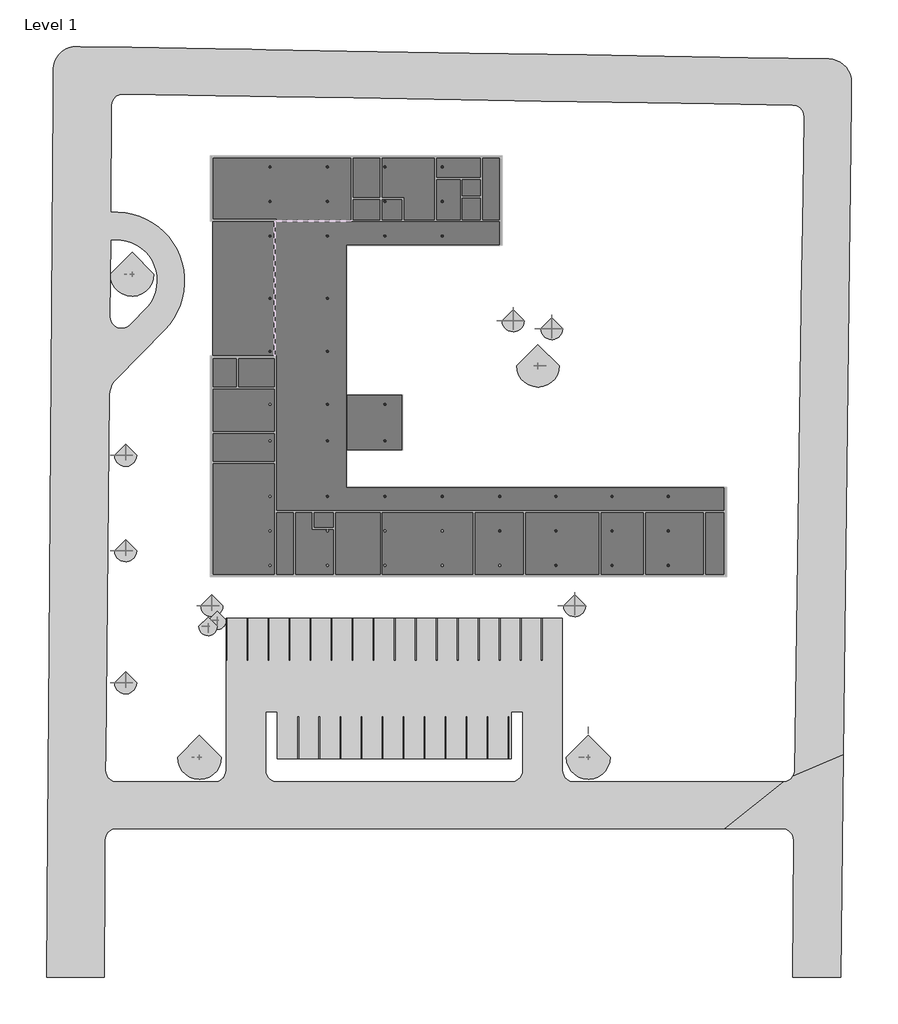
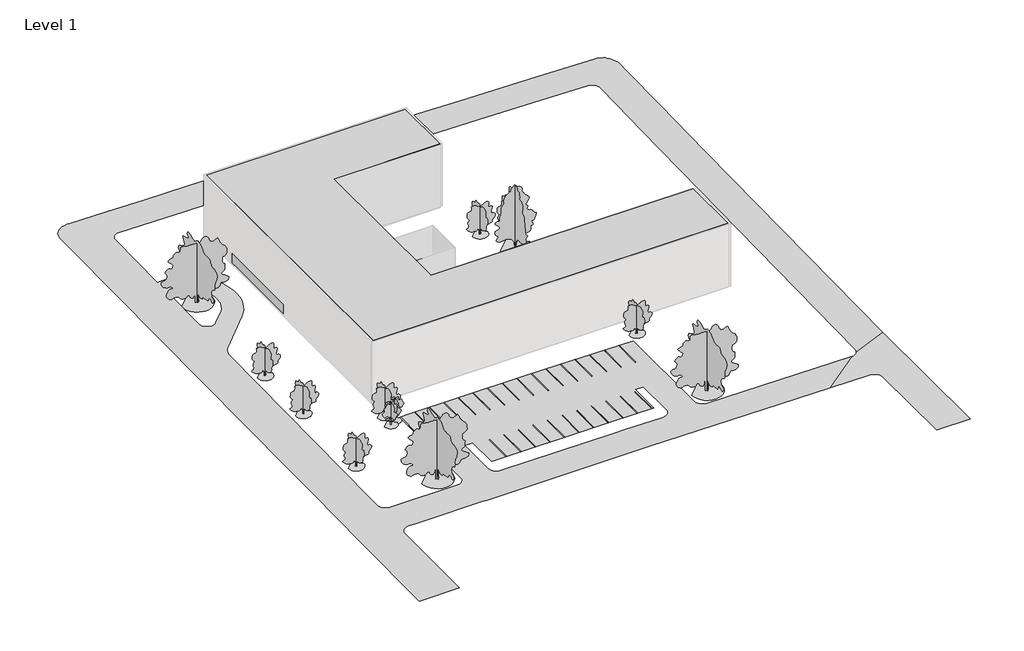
# One storey, part 3 of 3: 34 columns, 30 proxies, 13 geographic elements.
"""IFC4 building model written with IfcOpenShell, lengths in millimetres."""

from ifc_helpers import new_model, si_unit, origin, origin_with_axes, place, context, project, spatial, polyline, outline, extrude, triangles, transform, mapped, element, save
from components import m_parking_space_5480_x_2740mm_90_deg_a793e569, m_concrete_round_column_300mm_df790aaa, m_rpc_tree_deciduous_american_beech_6_0_meters_be49fed4, m_rpc_tree_deciduous_japanese_cherry_4_5_meters_7aaeb41d, m_rpc_tree_deciduous_lombardy_poplar_12_2_meters_1b309f58, m_rpc_tree_deciduous_scarlet_oak_12_5_meters_13b38d7d

model = new_model("IFC4")

# Units and contexts
model_context = context("Model", 3, world=origin())
ifc_project = project(units=[si_unit("LENGTHUNIT", "METRE", prefix="MILLI")], contexts=[model_context])

# Site, building, storey
site = spatial("IfcSite", under=ifc_project)
building = spatial("IfcBuilding", under=site)
storey = spatial("IfcBuildingStorey", under=building, Name="Level 1", Elevation=0.0)

# Proxies
placement = place(None, origin())
element("IfcBuildingElementProxy", 1, Name="Building Element Proxy", at=placement, inside=storey, context=model_context, shape_type="Tessellation", body=[
    triangles([(70309.7548828, 43704.7137085, -503.1527547), (59746.7205688, 43879.5355957, -409.5406998), (45204.5570435, 44120.2092773, -278.9620967), (38757.531958, 44226.9097412, -221.9724431), (23364.4389771, 44481.6709351, -156.1477909), (7458.42556, 44744.915332, 0.0), (-3099.0088051, 44919.6442017, 0.0), (-4909.0805878, 44949.6005127, 0.0), (-9691.7927261, 45028.7538208, 0.0), (-13464.786264, 45091.2011719, 0.0), (-20574.5627563, 45208.8684082, 0.0), (-27271.6376953, 45319.7081543, 0.0), (-27739.5370422, 45327.4518677, 0.0), (-28264.1631592, 45290.0215942, 0.0), (-28774.1901672, 45161.5457153, 0.0), (-29253.9399536, 44945.9681763, 0.0), (-29688.6669067, 44649.9211304, 0.0), (-30065.011377, 44282.4970459, 0.0), (-30371.4019775, 43854.9975586, 0.0), (-30598.4230042, 43380.5567505, 0.0), (-30739.095813, 42873.755127, 0.0), (-30774.2820374, 42505.3404053, 0.0), (-30789.0997375, 42350.1824341, 0.0), (-30818.2607483, 38430.6216797, 0.0), (-31349.0702087, -32913.8142334, 0.0), (-31410.3827454, -41154.7298218, 0.0), (-31466.9560364, -48758.3494263, 0.0), (-31526.3942688, -56747.4710815, 0.0), (-31669.8878357, -76033.9217651, 0.0), (-24160.2671448, -76033.9217651, 0.0), (-24090.7853394, -62944.5904907, 0.0), (-24065.2287598, -58130.4099243, 0.0), (-24026.1078918, -57797.9371948, 0.0), (-23964.4744446, -57624.1291992, 0.0), (-23914.2263489, -57482.4262207, 0.0), (-23735.1558838, -57199.58302, 0.0), (-23497.8145569, -56963.4997559, 0.0), (-23214.0249023, -56785.9338501, 0.0), (-22897.9232666, -56675.7266235, 0.0), (-22565.2505493, -56638.3707642, 0.0), (-21189.1601257, -56638.3707642, 0.0), (-18714.6158203, -56638.3707642, 0.0), (-9198.8908356, -56638.3707642, 0.0), (-8594.8358459, -56638.3707642, 0.0), (-7828.2291504, -56638.3707642, 0.0), (21010.0826843, -56638.3707642, 0.0), (22698.8121643, -56638.3707642, 0.0), (56711.1151611, -56638.3707642, -334.7282604), (64236.9255615, -56638.3707642, -334.7282604), (64572.5050781, -56676.3916992, -334.0721231), (64891.0763306, -56788.5243896, -332.1369578), (65176.4821655, -56969.0808105, -329.020869), (65414.2630005, -57208.917334, -324.8818048), (65592.3591064, -57495.8672607, -319.9295998), (65701.7431274, -57815.3872925, -314.4152925), (65736.8712158, -58151.2830688, -308.6184443), (65582.9224731, -76033.9217651, 0.0), (71858.6882446, -76033.9217651, 0.0), (72207.6111328, -46972.9328247, -501.5343578), (72914.4470581, 11897.6051788, -595.5837407), (72981.5592407, 17486.9884277, -555.8220689), (73096.2220093, 27037.1194519, -545.4053719), (73231.3532959, 38291.881311, -535.7858282), (73259.8957397, 40669.1083008, -533.0508934), (73220.8237061, 41189.0672607, -532.0520082), (73092.3059692, 41694.4085083, -530.2807137), (72878.2306641, 42169.863208, -527.790495), (72585.0625122, 42601.0694458, -524.6566383), (72221.661438, 42975.0001099, -520.9737236), (71799.0035156, 43280.3582153, -516.8530812), (71329.8554077, 43507.9210693, -512.4191949), (70828.3883423, 43650.810022, -507.805959), (65844.943689, -49064.5493408, -435.8225258), (65789.1005859, -49448.423584, -434.7050795), (65636.6912842, -49805.1366943, -432.6774053), (65397.8965576, -50110.8436157, -429.875069), (65088.6968262, -50345.0897827, -426.4855594), (64729.7652466, -50492.2110352, -422.7355339), (64345.1050049, -50542.3707642, -418.8757768), (37077.7972778, -50542.3707642, -150.5276125), (36744.0176514, -50504.7637573, -147.2983764), (36426.9718872, -50393.8263428, -144.3423523), (36142.5636658, -50215.1163208, -141.8077414), (35905.0502563, -49977.6052368, -139.8216707), (35726.3448853, -49693.1946899, -138.4837074), (35615.4051453, -49376.1535767, -137.8609529), (35577.7981384, -49042.3692993, -137.9846372), (35577.7981384, -29206.3707642, -167.3300298), (18575.1115448, -29206.3707642, 0.0), (14497.9359924, -29206.3707642, 0.0), (-7039.9656372, -29206.3707642, 0.0), (-8262.2014984, -29206.3707642, 0.0), (-8262.2014984, -49042.3692993, 0.0), (-8299.809668, -49376.1535767, 0.0), (-8410.7482452, -49693.1946899, 0.0), (-8589.4541977, -49977.6052368, 0.0), (-8665.8786026, -50054.028479, 0.0), (-8826.9670258, -50215.1163208, 0.0), (-9111.3758286, -50393.8263428, 0.0), (-9428.4198486, -50504.7637573, 0.0), (-9455.9652603, -50507.8658936, 0.0), (-9762.2018005, -50542.3707642, 0.0), (-21961.0269653, -50542.3707642, 0.0), (-22489.1714722, -50542.3707642, 0.0), (-22825.1137573, -50504.2661133, 0.0), (-23143.9896423, -50391.896228, 0.0), (-23429.5977905, -50210.9584351, 0.0), (-23667.4274597, -49970.6568237, 0.0), (-23845.3979919, -49683.1953003, 0.0), (-23954.4657532, -49363.1729736, 0.0), (-23989.0915466, -49026.8539673, 0.0), (-23965.8278503, -46777.8191528, 0.0), (-23482.8736084, -89.4265001, 0.0), (-23435.7322998, 363.1888415, 0.0), (-23321.7694885, 803.7518847, 0.0), (-23143.5268799, 1222.4547432, 0.0), (-22904.9670227, 1609.9761475, 0.0), (-22611.4058716, 1957.6892258, 0.0), (-16262.7991974, 8428.9988754, 0.0), (-15636.7711304, 9137.9788559, 0.0), (-15088.4732025, 9908.6498383, 0.0), (-14623.9422546, 10732.5286194, 0.0), (-14248.2919281, 11600.5442413, 0.0), (-13965.658017, 12503.1414734, 0.0), (-13779.1507965, 13430.3848755, 0.0), (-13690.8247925, 14372.0646057, 0.0), (-13701.6508759, 15317.8173431, 0.0), (-13811.5116119, 16257.2297699, 0.0), (-14019.1954468, 17179.959494, 0.0), (-14322.4187988, 18075.8513214, 0.0), (-14717.8411743, 18935.0395752, 0.0), (-15201.1093506, 19748.0690186, 0.0), (-15766.9062103, 20505.9855469, 0.0), (-16409.0007385, 21200.4478088, 0.0), (-17120.3235992, 21823.812085, 0.0), (-17893.0473633, 22369.2160034, 0.0), (-18718.662085, 22830.6506287, 0.0), (-19588.0811096, 23203.0418518, 0.0), (-20491.7329285, 23482.2875977, 0.0), (-21419.6693115, 23665.3136353, 0.0), (-22361.6746033, 23750.1084595, 0.0), (-23307.3796692, 23735.7325928, 0.0), (-23203.9185425, 37641.6768127, 0.0), (-23163.3768311, 37977.0679688, 0.0), (-23048.8094055, 38294.8811279, 0.0), (-22866.0228882, 38578.9940186, 0.0), (-22624.2911316, 38814.9958923, 0.0), (-22335.8738525, 38990.915387, 0.0), (-22015.4050415, 39097.8274658, 0.0), (-21679.1371948, 39130.3092041, 0.0), (-13208.9460663, 38990.1293884, 0.0), (-9625.997905, 38930.8306824, 0.0), (-5084.1908295, 38855.6655029, 0.0), (-1645.9585442, 38798.7619995, 0.0), (8377.2142456, 38632.8791016, 0.0), (32875.1398499, 38227.4364075, -240.4937689), (46729.6360474, 37998.1434265, -299.7389899), (55435.3325684, 37854.0638489, -376.6945579), (65630.1847046, 37685.3392639, -468.2372987), (65962.9318359, 37642.302356, -471.261242), (66277.7870361, 37526.3815247, -474.1950019), (66559.0024292, 37343.376416, -476.8917123), (66792.4998047, 37102.4422852, -479.216534), (66966.6054565, 36815.6318848, -481.0531225), (67072.6082886, 36497.2978271, -482.3095865), (67105.1969971, 36163.3670471, -482.9230665), (67025.2297852, 30755.4808594, -487.4104743), (66899.3025879, 22239.1774292, -496.4906977), (66805.7827148, 15914.661145, -541.4088498), (-1581.9995121, -47494.3707642, 0.0), (18839.3663452, -47494.3707642, 0.0), (21324.2449036, -47494.3707642, 0.0), (28897.5965881, -47494.3707642, -74.5322966), (28897.5965881, -41398.3707642, -83.5507232), (30421.5965881, -41398.3707642, -98.5489992), (30421.5965881, -49042.3692993, -87.2404598), (30383.9895813, -49376.1535767, -86.3765409), (30273.0498413, -49693.1946899, -84.8157168), (30094.3444702, -49977.6052368, -82.6362441), (29856.8310608, -50215.1163208, -79.9474184), (29572.4228394, -50393.8263428, -76.8840607), (29255.3770752, -50504.7637573, -73.5997817), (28921.5974487, -50542.3707642, -70.2592743), (21782.4332153, -50542.3707642, 0.0), (19562.9384583, -50542.3707642, 0.0), (-1605.9993553, -50542.3707642, 0.0), (-1939.7807259, -50504.7637573, 0.0), (-2256.8250366, -50393.8263428, 0.0), (-2541.2341301, -50215.1163208, 0.0), (-2778.7466675, -49977.6052368, 0.0), (-2957.4526199, -49693.1946899, 0.0), (-3068.3911972, -49376.1535767, 0.0), (-3105.9993668, -49042.3692993, 0.0), (-3105.9993668, -41398.3707642, 0.0), (-1581.9995121, -41398.3707642, 0.0), (-23329.5411072, 20062.4428528, 0.0), (-22621.2355042, 20122.8182373, 0.0), (-21911.2137268, 20088.0784973, 0.0), (-21212.1866272, 19958.8398743, 0.0), (-20536.6766968, 19737.4208313, 0.0), (-19896.7808716, 19427.7839172, 0.0), (-19303.9589172, 19035.4776306, 0.0), (-18768.829953, 18567.527124, 0.0), (-18300.9771149, 18032.3132813, 0.0), (-17908.7801239, 17439.420401, 0.0), (-17599.2606445, 16799.4687653, 0.0), (-17377.9648499, 16123.9181396, 0.0), (-17248.854126, 15424.8677856, 0.0), (-17214.2422852, 14714.8378693, 0.0), (-17274.7478943, 14006.5438934, 0.0), (-17429.2872986, 13312.6722931, 0.0), (-17675.0943878, 12645.649054, 0.0), (-18007.7659424, 12017.4211212, 0.0), (-18421.3430237, 11439.2389709, 0.0), (-20791.7983337, 9022.9684341, 0.0), (-21073.2044128, 8797.119429, 0.0), (-21399.8193604, 8643.7590225, 0.0), (-21753.3349915, 8571.483783, 0.0), (-22113.9339111, 8584.3452072, 0.0), (-22461.4010742, 8681.6229904, 0.0), (-22776.2609253, 8857.8639771, 0.0), (-23040.8610535, 9103.1879562, 0.0), (-23240.3698059, 9403.8428604, 0.0), (-23363.6018188, 9742.9750671, 0.0), (-23403.6505371, 10101.5741089, 0.0)], [[29, 30, 31], [29, 31, 28], [28, 32, 33], [32, 28, 31], [33, 34, 28], [28, 34, 35], [36, 37, 108], [36, 108, 28], [108, 37, 107], [38, 106, 107], [106, 38, 39], [37, 38, 107], [36, 28, 35], [28, 108, 27], [110, 111, 27], [109, 110, 27], [26, 27, 112], [25, 112, 113], [112, 25, 26], [27, 111, 112], [109, 27, 108], [114, 115, 224], [113, 114, 225], [225, 114, 224], [223, 116, 117], [223, 224, 115], [116, 223, 115], [25, 113, 24], [24, 113, 225], [105, 39, 40], [104, 40, 103], [105, 40, 104], [117, 118, 222], [118, 219, 220], [221, 118, 220], [223, 117, 222], [103, 41, 42], [41, 103, 40], [219, 118, 218], [216, 118, 119], [217, 218, 118], [118, 216, 217], [216, 119, 215], [212, 213, 122], [214, 121, 213], [119, 214, 215], [221, 222, 118], [121, 122, 213], [122, 123, 212], [211, 123, 124], [211, 212, 123], [211, 124, 210], [210, 124, 125], [121, 214, 120], [120, 214, 119], [105, 106, 39], [142, 143, 24], [196, 142, 24], [24, 144, 145], [144, 24, 143], [24, 145, 23], [146, 23, 145], [142, 196, 197], [196, 24, 225], [140, 198, 139], [197, 198, 141], [141, 198, 140], [12, 146, 147], [141, 142, 197], [12, 147, 148], [22, 20, 21], [16, 17, 22], [20, 22, 19], [18, 19, 22], [17, 18, 22], [22, 23, 13], [23, 12, 13], [23, 146, 12], [149, 11, 148], [16, 22, 15], [22, 14, 15], [13, 14, 22], [149, 150, 11], [12, 148, 11], [139, 198, 199], [207, 208, 128], [133, 203, 204], [205, 206, 131], [132, 204, 205], [207, 129, 206], [209, 126, 127], [126, 209, 210], [127, 128, 208], [206, 130, 131], [130, 206, 129], [129, 207, 128], [127, 208, 209], [210, 125, 126], [131, 132, 205], [137, 201, 136], [200, 201, 137], [11, 150, 151], [139, 199, 138], [200, 137, 138], [201, 202, 136], [199, 200, 138], [203, 134, 202], [134, 135, 202], [136, 202, 135], [10, 151, 9], [10, 11, 151], [203, 133, 134], [204, 132, 133], [103, 42, 102], [100, 43, 44], [99, 100, 44], [102, 43, 101], [188, 45, 187], [100, 101, 43], [44, 45, 99], [45, 186, 187], [43, 102, 42], [185, 186, 46], [46, 186, 45], [184, 46, 47], [185, 46, 184], [182, 183, 47], [47, 183, 184], [182, 82, 181], [99, 45, 98], [98, 45, 97], [95, 96, 190], [93, 94, 192], [95, 191, 94], [97, 190, 96], [45, 189, 190], [45, 188, 189], [191, 192, 94], [191, 95, 190], [193, 93, 192], [180, 181, 83], [190, 97, 45], [81, 182, 47], [79, 50, 78], [49, 50, 79], [80, 47, 48], [48, 79, 80], [79, 48, 49], [81, 47, 80], [78, 50, 51], [57, 58, 56], [55, 59, 54], [77, 51, 52], [59, 75, 53], [76, 52, 53], [54, 59, 53], [182, 81, 82], [55, 56, 59], [180, 84, 179], [180, 83, 84], [179, 84, 85], [177, 178, 86], [85, 86, 178], [178, 179, 85], [87, 177, 86], [77, 78, 51], [75, 76, 53], [59, 73, 74], [74, 75, 59], [77, 52, 76], [82, 83, 181], [56, 58, 59], [170, 171, 195], [91, 92, 194], [194, 195, 91], [93, 194, 92], [195, 90, 91], [90, 195, 171], [194, 93, 193], [175, 176, 87], [172, 174, 89], [172, 173, 174], [175, 88, 174], [88, 175, 87], [172, 89, 171], [177, 87, 176], [89, 174, 88], [8, 152, 153], [7, 153, 154], [8, 9, 152], [6, 7, 154], [8, 153, 7], [154, 155, 6], [9, 151, 152], [89, 90, 171], [155, 5, 6], [155, 156, 5], [5, 156, 4], [4, 157, 3], [4, 156, 157], [168, 169, 61], [160, 161, 1], [162, 163, 64], [161, 162, 1], [163, 164, 63], [62, 168, 61], [61, 169, 60], [165, 166, 63], [167, 63, 166], [168, 62, 167], [164, 165, 63], [63, 167, 62], [3, 158, 2], [2, 158, 159], [2, 159, 1], [66, 71, 72], [72, 1, 65], [159, 160, 1], [158, 3, 157], [66, 72, 65], [64, 65, 1], [66, 67, 71], [69, 70, 68], [67, 68, 70], [71, 67, 70], [162, 64, 1], [163, 63, 64], [60, 169, 73], [59, 60, 73]], closed=False),
])
m_parking_space_5480_x_2740mm_90_deg_shape = m_parking_space_5480_x_2740mm_90_deg_a793e569(model_context)
element("IfcBuildingElementProxy", 2, Name="M_Parking Space : 5480 x 2740mm - 90 deg", ObjectType="M_Parking Space : 5480 x 2740mm - 90 deg", at=placement, inside=storey, context=model_context, shape_type="MappedRepresentation", body=[
    mapped(m_parking_space_5480_x_2740mm_90_deg_shape, transform((-8211.3704002, -29206.3707642, 0.7803686), x_axis=(1.0, 0.0, 0.0), y_axis=(0.0, 1.0, 0.0), z_axis=(0.0, 0.0, 1.0))),
])
element("IfcBuildingElementProxy", 3, Name="M_Parking Space : 5480 x 2740mm - 90 deg", ObjectType="M_Parking Space : 5480 x 2740mm - 90 deg", at=placement, inside=storey, context=model_context, shape_type="MappedRepresentation", body=[
    mapped(m_parking_space_5480_x_2740mm_90_deg_shape, transform((-5471.4012928, -29206.3707642, 0.7803686), x_axis=(1.0, 0.0, 0.0), y_axis=(0.0, 1.0, 0.0), z_axis=(0.0, 0.0, 1.0))),
])
element("IfcBuildingElementProxy", 4, Name="M_Parking Space : 5480 x 2740mm - 90 deg", ObjectType="M_Parking Space : 5480 x 2740mm - 90 deg", at=placement, inside=storey, context=model_context, shape_type="MappedRepresentation", body=[
    mapped(m_parking_space_5480_x_2740mm_90_deg_shape, transform((-2731.4321855, -29206.3707642, 0.7803686), x_axis=(1.0, 0.0, 0.0), y_axis=(0.0, 1.0, 0.0), z_axis=(0.0, 0.0, 1.0))),
])
element("IfcBuildingElementProxy", 5, Name="M_Parking Space : 5480 x 2740mm - 90 deg", ObjectType="M_Parking Space : 5480 x 2740mm - 90 deg", at=placement, inside=storey, context=model_context, shape_type="MappedRepresentation", body=[
    mapped(m_parking_space_5480_x_2740mm_90_deg_shape, transform((8.5369219, -29206.3707642, 0.7803686), x_axis=(1.0, 0.0, 0.0), y_axis=(0.0, 1.0, 0.0), z_axis=(0.0, 0.0, 1.0))),
])
element("IfcBuildingElementProxy", 6, Name="M_Parking Space : 5480 x 2740mm - 90 deg", ObjectType="M_Parking Space : 5480 x 2740mm - 90 deg", at=placement, inside=storey, context=model_context, shape_type="MappedRepresentation", body=[
    mapped(m_parking_space_5480_x_2740mm_90_deg_shape, transform((2748.5060292, -29206.3707642, 0.7803686), x_axis=(1.0, 0.0, 0.0), y_axis=(0.0, 1.0, 0.0), z_axis=(0.0, 0.0, 1.0))),
])
element("IfcBuildingElementProxy", 7, Name="M_Parking Space : 5480 x 2740mm - 90 deg", ObjectType="M_Parking Space : 5480 x 2740mm - 90 deg", at=placement, inside=storey, context=model_context, shape_type="MappedRepresentation", body=[
    mapped(m_parking_space_5480_x_2740mm_90_deg_shape, transform((5488.4751366, -29206.3707642, 0.7803686), x_axis=(1.0, 0.0, 0.0), y_axis=(0.0, 1.0, 0.0), z_axis=(0.0, 0.0, 1.0))),
])
element("IfcBuildingElementProxy", 8, Name="M_Parking Space : 5480 x 2740mm - 90 deg", ObjectType="M_Parking Space : 5480 x 2740mm - 90 deg", at=placement, inside=storey, context=model_context, shape_type="MappedRepresentation", body=[
    mapped(m_parking_space_5480_x_2740mm_90_deg_shape, transform((8228.4442439, -29206.3707642, 0.7803686), x_axis=(1.0, 0.0, 0.0), y_axis=(0.0, 1.0, 0.0), z_axis=(0.0, 0.0, 1.0))),
])
element("IfcBuildingElementProxy", 9, Name="M_Parking Space : 5480 x 2740mm - 90 deg", ObjectType="M_Parking Space : 5480 x 2740mm - 90 deg", at=placement, inside=storey, context=model_context, shape_type="MappedRepresentation", body=[
    mapped(m_parking_space_5480_x_2740mm_90_deg_shape, transform((10968.4133512, -29206.3707642, 0.7803686), x_axis=(1.0, 0.0, 0.0), y_axis=(0.0, 1.0, 0.0), z_axis=(0.0, 0.0, 1.0))),
])
element("IfcBuildingElementProxy", 10, Name="M_Parking Space : 5480 x 2740mm - 90 deg", ObjectType="M_Parking Space : 5480 x 2740mm - 90 deg", at=placement, inside=storey, context=model_context, shape_type="MappedRepresentation", body=[
    mapped(m_parking_space_5480_x_2740mm_90_deg_shape, transform((13708.3824586, -29206.3707642, 0.7803686), x_axis=(1.0, 0.0, 0.0), y_axis=(0.0, 1.0, 0.0), z_axis=(0.0, 0.0, 1.0))),
])
element("IfcBuildingElementProxy", 11, Name="M_Parking Space : 5480 x 2740mm - 90 deg", ObjectType="M_Parking Space : 5480 x 2740mm - 90 deg", at=placement, inside=storey, context=model_context, shape_type="MappedRepresentation", body=[
    mapped(m_parking_space_5480_x_2740mm_90_deg_shape, transform((16448.3515659, -29206.3707642, 0.7254434), x_axis=(1.0, 0.0, 0.0), y_axis=(0.0, 1.0, 0.0), z_axis=(0.0, 0.0, 1.0))),
])
element("IfcBuildingElementProxy", 12, Name="M_Parking Space : 5480 x 2740mm - 90 deg", ObjectType="M_Parking Space : 5480 x 2740mm - 90 deg", at=placement, inside=storey, context=model_context, shape_type="MappedRepresentation", body=[
    mapped(m_parking_space_5480_x_2740mm_90_deg_shape, transform((19188.3206733, -29206.3707642, -5.2310848), x_axis=(0.9999560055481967, 0.0, -0.009380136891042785), y_axis=(-1.1675017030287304e-05, 0.9999992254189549, -0.0012445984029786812), z_axis=(0.009380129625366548, 0.0012446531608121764, 0.9999552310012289))),
])
element("IfcBuildingElementProxy", 13, Name="M_Parking Space : 5480 x 2740mm - 90 deg", ObjectType="M_Parking Space : 5480 x 2740mm - 90 deg", at=placement, inside=storey, context=model_context, shape_type="MappedRepresentation", body=[
    mapped(m_parking_space_5480_x_2740mm_90_deg_shape, transform((21928.2897806, -29206.3707642, -32.2196013), x_axis=(0.9999515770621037, 0.0, -0.0098409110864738), y_axis=(-1.4557933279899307e-05, 0.9999989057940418, -0.0014792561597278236), z_axis=(0.009840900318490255, 0.0014793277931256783, 0.99995048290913))),
])
element("IfcBuildingElementProxy", 14, Name="M_Parking Space : 5480 x 2740mm - 90 deg", ObjectType="M_Parking Space : 5480 x 2740mm - 90 deg", at=placement, inside=storey, context=model_context, shape_type="MappedRepresentation", body=[
    mapped(m_parking_space_5480_x_2740mm_90_deg_shape, transform((24668.258888, -29206.3707642, -59.1846994), x_axis=(0.9999515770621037, 0.0, -0.009840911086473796), y_axis=(-1.4557933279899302e-05, 0.9999989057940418, -0.0014792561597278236), z_axis=(0.009840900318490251, 0.0014793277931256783, 0.99995048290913))),
])
element("IfcBuildingElementProxy", 15, Name="M_Parking Space : 5480 x 2740mm - 90 deg", ObjectType="M_Parking Space : 5480 x 2740mm - 90 deg", at=placement, inside=storey, context=model_context, shape_type="MappedRepresentation", body=[
    mapped(m_parking_space_5480_x_2740mm_90_deg_shape, transform((27408.2279953, -29206.3707642, -86.1497975), x_axis=(0.9999515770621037, 0.0, -0.0098409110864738), y_axis=(-1.4557933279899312e-05, 0.9999989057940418, -0.001479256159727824), z_axis=(0.009840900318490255, 0.0014793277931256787, 0.99995048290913))),
])
element("IfcBuildingElementProxy", 16, Name="M_Parking Space : 5480 x 2740mm - 90 deg", ObjectType="M_Parking Space : 5480 x 2740mm - 90 deg", at=placement, inside=storey, context=model_context, shape_type="MappedRepresentation", body=[
    mapped(m_parking_space_5480_x_2740mm_90_deg_shape, transform((30148.1971027, -29206.3707642, -113.1148956), x_axis=(0.9999515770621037, 0.0, -0.009840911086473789), y_axis=(-1.4557933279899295e-05, 0.9999989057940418, -0.001479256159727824), z_axis=(0.009840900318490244, 0.0014793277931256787, 0.99995048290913))),
])
element("IfcBuildingElementProxy", 17, Name="M_Parking Space : 5480 x 2740mm - 90 deg", ObjectType="M_Parking Space : 5480 x 2740mm - 90 deg", at=placement, inside=storey, context=model_context, shape_type="MappedRepresentation", body=[
    mapped(m_parking_space_5480_x_2740mm_90_deg_shape, transform((32888.16621, -29206.3707642, -140.0799937), x_axis=(0.9999515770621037, 0.0, -0.009840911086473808), y_axis=(-1.4557933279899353e-05, 0.9999989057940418, -0.0014792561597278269), z_axis=(0.009840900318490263, 0.0014793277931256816, 0.99995048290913))),
])
element("IfcBuildingElementProxy", 18, Name="M_Parking Space : 5480 x 2740mm - 90 deg", ObjectType="M_Parking Space : 5480 x 2740mm - 90 deg", at=placement, inside=storey, context=model_context, shape_type="MappedRepresentation", body=[
    mapped(m_parking_space_5480_x_2740mm_90_deg_shape, transform((28558.0005584, -47494.3704098, -70.4098691), x_axis=(-0.9999515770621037, 0.0, 0.009840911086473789), y_axis=(1.4557933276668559e-05, -0.9999989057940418, 0.0014792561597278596), z_axis=(0.00984090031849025, 0.0014793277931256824, 0.99995048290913))),
])
element("IfcBuildingElementProxy", 19, Name="M_Parking Space : 5480 x 2740mm - 90 deg", ObjectType="M_Parking Space : 5480 x 2740mm - 90 deg", at=placement, inside=storey, context=model_context, shape_type="MappedRepresentation", body=[
    mapped(m_parking_space_5480_x_2740mm_90_deg_shape, transform((25818.031746, -47494.3704098, -43.444774), x_axis=(-0.9999515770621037, 0.0, 0.009840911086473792), y_axis=(1.455793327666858e-05, -0.9999989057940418, 0.0014792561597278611), z_axis=(0.009840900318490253, 0.001479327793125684, 0.99995048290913))),
])
element("IfcBuildingElementProxy", 20, Name="M_Parking Space : 5480 x 2740mm - 90 deg", ObjectType="M_Parking Space : 5480 x 2740mm - 90 deg", at=placement, inside=storey, context=model_context, shape_type="MappedRepresentation", body=[
    mapped(m_parking_space_5480_x_2740mm_90_deg_shape, transform((23078.0629336, -47494.3704098, -16.4796788), x_axis=(-0.9999515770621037, 0.0, 0.009840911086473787), y_axis=(1.4557933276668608e-05, -0.9999989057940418, 0.0014792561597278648), z_axis=(0.009840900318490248, 0.0014793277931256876, 0.99995048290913))),
])
element("IfcBuildingElementProxy", 21, Name="M_Parking Space : 5480 x 2740mm - 90 deg", ObjectType="M_Parking Space : 5480 x 2740mm - 90 deg", at=placement, inside=storey, context=model_context, shape_type="MappedRepresentation", body=[
    mapped(m_parking_space_5480_x_2740mm_90_deg_shape, transform((20338.0941212, -47494.3704098, 0.5399922), x_axis=(-0.9999888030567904, 0.0, 0.004732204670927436), y_axis=(3.5003760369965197e-06, -0.9999997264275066, 0.0007396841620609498), z_axis=(0.004732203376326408, 0.0007396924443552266, 0.9999885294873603))),
])
element("IfcBuildingElementProxy", 22, Name="M_Parking Space : 5480 x 2740mm - 90 deg", ObjectType="M_Parking Space : 5480 x 2740mm - 90 deg", at=placement, inside=storey, context=model_context, shape_type="MappedRepresentation", body=[
    mapped(m_parking_space_5480_x_2740mm_90_deg_shape, transform((17598.1253087, -47494.3704098, 0.7803686), x_axis=(-1.0, 0.0, 0.0), y_axis=(0.0, -1.0, 0.0), z_axis=(0.0, 0.0, 1.0))),
])
element("IfcBuildingElementProxy", 23, Name="M_Parking Space : 5480 x 2740mm - 90 deg", ObjectType="M_Parking Space : 5480 x 2740mm - 90 deg", at=placement, inside=storey, context=model_context, shape_type="MappedRepresentation", body=[
    mapped(m_parking_space_5480_x_2740mm_90_deg_shape, transform((14858.1564963, -47494.3704098, 0.7803686), x_axis=(-1.0, 0.0, 0.0), y_axis=(0.0, -1.0, 0.0), z_axis=(0.0, 0.0, 1.0))),
])
element("IfcBuildingElementProxy", 24, Name="M_Parking Space : 5480 x 2740mm - 90 deg", ObjectType="M_Parking Space : 5480 x 2740mm - 90 deg", at=placement, inside=storey, context=model_context, shape_type="MappedRepresentation", body=[
    mapped(m_parking_space_5480_x_2740mm_90_deg_shape, transform((12118.1876839, -47494.3704098, 0.7803686), x_axis=(-1.0, 0.0, 0.0), y_axis=(0.0, -1.0, 0.0), z_axis=(0.0, 0.0, 1.0))),
])
element("IfcBuildingElementProxy", 25, Name="M_Parking Space : 5480 x 2740mm - 90 deg", ObjectType="M_Parking Space : 5480 x 2740mm - 90 deg", at=placement, inside=storey, context=model_context, shape_type="MappedRepresentation", body=[
    mapped(m_parking_space_5480_x_2740mm_90_deg_shape, transform((9378.2188715, -47494.3704098, 0.7803686), x_axis=(-1.0, 0.0, 0.0), y_axis=(0.0, -1.0, 0.0), z_axis=(0.0, 0.0, 1.0))),
])
element("IfcBuildingElementProxy", 26, Name="M_Parking Space : 5480 x 2740mm - 90 deg", ObjectType="M_Parking Space : 5480 x 2740mm - 90 deg", at=placement, inside=storey, context=model_context, shape_type="MappedRepresentation", body=[
    mapped(m_parking_space_5480_x_2740mm_90_deg_shape, transform((6638.2500591, -47494.3704098, 0.7803686), x_axis=(-1.0, 0.0, 0.0), y_axis=(0.0, -1.0, 0.0), z_axis=(0.0, 0.0, 1.0))),
])
element("IfcBuildingElementProxy", 27, Name="M_Parking Space : 5480 x 2740mm - 90 deg", ObjectType="M_Parking Space : 5480 x 2740mm - 90 deg", at=placement, inside=storey, context=model_context, shape_type="MappedRepresentation", body=[
    mapped(m_parking_space_5480_x_2740mm_90_deg_shape, transform((3898.2812467, -47494.3704098, 0.7803686), x_axis=(-1.0, 0.0, 0.0), y_axis=(0.0, -1.0, 0.0), z_axis=(0.0, 0.0, 1.0))),
])
element("IfcBuildingElementProxy", 28, Name="M_Parking Space : 5480 x 2740mm - 90 deg", ObjectType="M_Parking Space : 5480 x 2740mm - 90 deg", at=placement, inside=storey, context=model_context, shape_type="MappedRepresentation", body=[
    mapped(m_parking_space_5480_x_2740mm_90_deg_shape, transform((1158.3124343, -47494.3704098, 0.7803686), x_axis=(-1.0, 0.0, 0.0), y_axis=(0.0, -1.0, 0.0), z_axis=(0.0, 0.0, 1.0))),
])
element("IfcBuildingElementProxy", 29, Name="Main Building : Main Building", ObjectType="Main Building : Main Building", at=placement, inside=storey, context=model_context, shape_type="SweptSolid", body=[
    extrude(outline(polyline([(27411.8999097, 30818.5799804), (27411.8999097, 19414.8392059), (7447.5010724, 19414.8392059), (7447.5010724, -12132.3615692), (56699.1173382, -12132.3615692), (56699.1173382, -23510.7006057), (-10026.8386635, -23510.7006057), (-10026.8386635, 30818.5799804), (27411.8999097, 30818.5799804)])), origin_with_axes(), (0.0, 0.0, 1.0), 12400.0),
])
element("IfcBuildingElementProxy", 30, Name="Pavillion : Pavillion", ObjectType="Pavillion : Pavillion", at=placement, inside=storey, context=model_context, shape_type="SweptSolid", body=[
    extrude(outline(polyline([(14709.0902051, -89.4607941), (14709.0902051, -7283.8611817), (7447.5010724, -7283.8611817), (7447.5010724, -89.4607941), (14709.0902051, -89.4607941)])), origin_with_axes(), (0.0, 0.0, 1.0), 6600.0),
])

# Columns
m_concrete_round_column_300mm_shape = m_concrete_round_column_300mm_df790aaa(model_context)
element("IfcColumn", 31, ObjectType="M_Concrete-Round-Column : 300mm", at=placement, inside=storey, context=model_context, shape_type="MappedRepresentation", body=[
    mapped(m_concrete_round_column_300mm_shape, transform((-2539.0909489, 25116.7095931, 0.0), x_axis=(-1.0, 0.0, 0.0), y_axis=(0.0, -1.0, 0.0), z_axis=(0.0, 0.0, 1.0))),
])
element("IfcColumn", 32, ObjectType="M_Concrete-Round-Column : 300mm", at=placement, inside=storey, context=model_context, shape_type="MappedRepresentation", body=[
    mapped(m_concrete_round_column_300mm_shape, transform((-2539.0909489, 12506.7392059, 0.0), x_axis=(-1.0, 0.0, 0.0), y_axis=(0.0, -1.0, 0.0), z_axis=(0.0, 0.0, 1.0))),
])
element("IfcColumn", 33, ObjectType="M_Concrete-Round-Column : 300mm", at=placement, inside=storey, context=model_context, shape_type="MappedRepresentation", body=[
    mapped(m_concrete_round_column_300mm_shape, transform((-2539.0909489, 5598.6392059, 0.0), x_axis=(-1.0, 0.0, 0.0), y_axis=(0.0, -1.0, 0.0), z_axis=(0.0, 0.0, 1.0))),
])
element("IfcColumn", 34, ObjectType="M_Concrete-Round-Column : 300mm", at=placement, inside=storey, context=model_context, shape_type="MappedRepresentation", body=[
    mapped(m_concrete_round_column_300mm_shape, transform((-2539.0909489, 29618.5799804, 0.0), x_axis=(-1.0, 0.0, 0.0), y_axis=(0.0, -1.0, 0.0), z_axis=(0.0, 0.0, 1.0))),
])
element("IfcColumn", 35, ObjectType="M_Concrete-Round-Column : 300mm", at=placement, inside=storey, context=model_context, shape_type="MappedRepresentation", body=[
    mapped(m_concrete_round_column_300mm_shape, transform((-2539.0909489, 20614.8392059, 0.0), x_axis=(-1.0, 0.0, 0.0), y_axis=(0.0, -1.0, 0.0), z_axis=(0.0, 0.0, 1.0))),
])
element("IfcColumn", 36, ObjectType="M_Concrete-Round-Column : 300mm", at=placement, inside=storey, context=model_context, shape_type="MappedRepresentation", body=[
    mapped(m_concrete_round_column_300mm_shape, transform((4948.6567657, 25116.7095931, 0.0), x_axis=(-1.0, 0.0, 0.0), y_axis=(0.0, -1.0, 0.0), z_axis=(0.0, 0.0, 1.0))),
])
element("IfcColumn", 37, ObjectType="M_Concrete-Round-Column : 300mm", at=placement, inside=storey, context=model_context, shape_type="MappedRepresentation", body=[
    mapped(m_concrete_round_column_300mm_shape, transform((4948.6567657, 12506.7392059, 0.0), x_axis=(-1.0, 0.0, 0.0), y_axis=(0.0, -1.0, 0.0), z_axis=(0.0, 0.0, 1.0))),
])
element("IfcColumn", 38, ObjectType="M_Concrete-Round-Column : 300mm", at=placement, inside=storey, context=model_context, shape_type="MappedRepresentation", body=[
    mapped(m_concrete_round_column_300mm_shape, transform((4948.6567657, 5598.6392059, 0.0), x_axis=(-1.0, 0.0, 0.0), y_axis=(0.0, -1.0, 0.0), z_axis=(0.0, 0.0, 1.0))),
])
element("IfcColumn", 39, ObjectType="M_Concrete-Round-Column : 300mm", at=placement, inside=storey, context=model_context, shape_type="MappedRepresentation", body=[
    mapped(m_concrete_round_column_300mm_shape, transform((4948.6567657, -1309.4607941, 0.0), x_axis=(-1.0, 0.0, 0.0), y_axis=(0.0, -1.0, 0.0), z_axis=(0.0, 0.0, 1.0))),
])
element("IfcColumn", 40, ObjectType="M_Concrete-Round-Column : 300mm", at=placement, inside=storey, context=model_context, shape_type="MappedRepresentation", body=[
    mapped(m_concrete_round_column_300mm_shape, transform((4948.6567657, -6063.8611817, 0.0), x_axis=(-1.0, 0.0, 0.0), y_axis=(0.0, -1.0, 0.0), z_axis=(0.0, 0.0, 1.0))),
])
element("IfcColumn", 41, ObjectType="M_Concrete-Round-Column : 300mm", at=placement, inside=storey, context=model_context, shape_type="MappedRepresentation", body=[
    mapped(m_concrete_round_column_300mm_shape, transform((4948.6567657, 29618.5799804, 0.0), x_axis=(-1.0, 0.0, 0.0), y_axis=(0.0, -1.0, 0.0), z_axis=(0.0, 0.0, 1.0))),
])
element("IfcColumn", 42, ObjectType="M_Concrete-Round-Column : 300mm", at=placement, inside=storey, context=model_context, shape_type="MappedRepresentation", body=[
    mapped(m_concrete_round_column_300mm_shape, transform((4948.6567657, 20614.8392059, 0.0), x_axis=(-1.0, 0.0, 0.0), y_axis=(0.0, -1.0, 0.0), z_axis=(0.0, 0.0, 1.0))),
])
element("IfcColumn", 43, ObjectType="M_Concrete-Round-Column : 300mm", at=placement, inside=storey, context=model_context, shape_type="MappedRepresentation", body=[
    mapped(m_concrete_round_column_300mm_shape, transform((4948.6567657, -13332.3615692, 0.0), x_axis=(-1.0, 0.0, 0.0), y_axis=(0.0, -1.0, 0.0), z_axis=(0.0, 0.0, 1.0))),
])
element("IfcColumn", 44, ObjectType="M_Concrete-Round-Column : 300mm", at=placement, inside=storey, context=model_context, shape_type="MappedRepresentation", body=[
    mapped(m_concrete_round_column_300mm_shape, transform((12436.4044804, 25116.7095931, 0.0), x_axis=(-1.0, 0.0, 0.0), y_axis=(0.0, -1.0, 0.0), z_axis=(0.0, 0.0, 1.0))),
])
element("IfcColumn", 45, ObjectType="M_Concrete-Round-Column : 300mm", at=placement, inside=storey, context=model_context, shape_type="MappedRepresentation", body=[
    mapped(m_concrete_round_column_300mm_shape, transform((12436.4044804, -1309.4607941, 0.0), x_axis=(-1.0, 0.0, 0.0), y_axis=(0.0, -1.0, 0.0), z_axis=(0.0, 0.0, 1.0))),
])
element("IfcColumn", 46, ObjectType="M_Concrete-Round-Column : 300mm", at=placement, inside=storey, context=model_context, shape_type="MappedRepresentation", body=[
    mapped(m_concrete_round_column_300mm_shape, transform((12436.4044804, -6063.8611817, 0.0), x_axis=(-1.0, 0.0, 0.0), y_axis=(0.0, -1.0, 0.0), z_axis=(0.0, 0.0, 1.0))),
])
element("IfcColumn", 47, ObjectType="M_Concrete-Round-Column : 300mm", at=placement, inside=storey, context=model_context, shape_type="MappedRepresentation", body=[
    mapped(m_concrete_round_column_300mm_shape, transform((12436.4044804, 29618.5799804, 0.0), x_axis=(-1.0, 0.0, 0.0), y_axis=(0.0, -1.0, 0.0), z_axis=(0.0, 0.0, 1.0))),
])
element("IfcColumn", 48, ObjectType="M_Concrete-Round-Column : 300mm", at=placement, inside=storey, context=model_context, shape_type="MappedRepresentation", body=[
    mapped(m_concrete_round_column_300mm_shape, transform((12436.4044804, 20614.8392059, 0.0), x_axis=(-1.0, 0.0, 0.0), y_axis=(0.0, -1.0, 0.0), z_axis=(0.0, 0.0, 1.0))),
])
element("IfcColumn", 49, ObjectType="M_Concrete-Round-Column : 300mm", at=placement, inside=storey, context=model_context, shape_type="MappedRepresentation", body=[
    mapped(m_concrete_round_column_300mm_shape, transform((12436.4044804, -13332.3615692, 0.0), x_axis=(-1.0, 0.0, 0.0), y_axis=(0.0, -1.0, 0.0), z_axis=(0.0, 0.0, 1.0))),
])
element("IfcColumn", 50, ObjectType="M_Concrete-Round-Column : 300mm", at=placement, inside=storey, context=model_context, shape_type="MappedRepresentation", body=[
    mapped(m_concrete_round_column_300mm_shape, transform((19924.152195, 25116.7095931, 0.0), x_axis=(-1.0, 0.0, 0.0), y_axis=(0.0, -1.0, 0.0), z_axis=(0.0, 0.0, 1.0))),
])
element("IfcColumn", 51, ObjectType="M_Concrete-Round-Column : 300mm", at=placement, inside=storey, context=model_context, shape_type="MappedRepresentation", body=[
    mapped(m_concrete_round_column_300mm_shape, transform((19924.152195, 29618.5799804, 0.0), x_axis=(-1.0, 0.0, 0.0), y_axis=(0.0, -1.0, 0.0), z_axis=(0.0, 0.0, 1.0))),
])
element("IfcColumn", 52, ObjectType="M_Concrete-Round-Column : 300mm", at=placement, inside=storey, context=model_context, shape_type="MappedRepresentation", body=[
    mapped(m_concrete_round_column_300mm_shape, transform((19924.152195, 20614.8392059, 0.0), x_axis=(-1.0, 0.0, 0.0), y_axis=(0.0, -1.0, 0.0), z_axis=(0.0, 0.0, 1.0))),
])
element("IfcColumn", 53, ObjectType="M_Concrete-Round-Column : 300mm", at=placement, inside=storey, context=model_context, shape_type="MappedRepresentation", body=[
    mapped(m_concrete_round_column_300mm_shape, transform((19924.152195, -13332.3615692, 0.0), x_axis=(-1.0, 0.0, 0.0), y_axis=(0.0, -1.0, 0.0), z_axis=(0.0, 0.0, 1.0))),
])
element("IfcColumn", 54, ObjectType="M_Concrete-Round-Column : 300mm", at=placement, inside=storey, context=model_context, shape_type="MappedRepresentation", body=[
    mapped(m_concrete_round_column_300mm_shape, transform((27411.8999097, -17821.5310875, 0.0), x_axis=(-1.0, 0.0, 0.0), y_axis=(0.0, -1.0, 0.0), z_axis=(0.0, 0.0, 1.0))),
])
element("IfcColumn", 55, ObjectType="M_Concrete-Round-Column : 300mm", at=placement, inside=storey, context=model_context, shape_type="MappedRepresentation", body=[
    mapped(m_concrete_round_column_300mm_shape, transform((27411.8999097, -13332.3615692, 0.0), x_axis=(-1.0, 0.0, 0.0), y_axis=(0.0, -1.0, 0.0), z_axis=(0.0, 0.0, 1.0))),
])
element("IfcColumn", 56, ObjectType="M_Concrete-Round-Column : 300mm", at=placement, inside=storey, context=model_context, shape_type="MappedRepresentation", body=[
    mapped(m_concrete_round_column_300mm_shape, transform((34733.7042668, -17821.5310875, 0.0), x_axis=(-1.0, 0.0, 0.0), y_axis=(0.0, -1.0, 0.0), z_axis=(0.0, 0.0, 1.0))),
])
element("IfcColumn", 57, ObjectType="M_Concrete-Round-Column : 300mm", at=placement, inside=storey, context=model_context, shape_type="MappedRepresentation", body=[
    mapped(m_concrete_round_column_300mm_shape, transform((34733.7042668, -13332.3615692, 0.0), x_axis=(-1.0, 0.0, 0.0), y_axis=(0.0, -1.0, 0.0), z_axis=(0.0, 0.0, 1.0))),
])
element("IfcColumn", 58, ObjectType="M_Concrete-Round-Column : 300mm", at=placement, inside=storey, context=model_context, shape_type="MappedRepresentation", body=[
    mapped(m_concrete_round_column_300mm_shape, transform((34733.7042668, -22310.7006057, 0.0), x_axis=(-1.0, 0.0, 0.0), y_axis=(0.0, -1.0, 0.0), z_axis=(0.0, 0.0, 1.0))),
])
element("IfcColumn", 59, ObjectType="M_Concrete-Round-Column : 300mm", at=placement, inside=storey, context=model_context, shape_type="MappedRepresentation", body=[
    mapped(m_concrete_round_column_300mm_shape, transform((42055.5086239, -17821.5310875, 0.0), x_axis=(-1.0, 0.0, 0.0), y_axis=(0.0, -1.0, 0.0), z_axis=(0.0, 0.0, 1.0))),
])
element("IfcColumn", 60, ObjectType="M_Concrete-Round-Column : 300mm", at=placement, inside=storey, context=model_context, shape_type="MappedRepresentation", body=[
    mapped(m_concrete_round_column_300mm_shape, transform((42055.5086239, -13332.3615692, 0.0), x_axis=(-1.0, 0.0, 0.0), y_axis=(0.0, -1.0, 0.0), z_axis=(0.0, 0.0, 1.0))),
])
element("IfcColumn", 61, ObjectType="M_Concrete-Round-Column : 300mm", at=placement, inside=storey, context=model_context, shape_type="MappedRepresentation", body=[
    mapped(m_concrete_round_column_300mm_shape, transform((42055.5086239, -22310.7006057, 0.0), x_axis=(-1.0, 0.0, 0.0), y_axis=(0.0, -1.0, 0.0), z_axis=(0.0, 0.0, 1.0))),
])
element("IfcColumn", 62, ObjectType="M_Concrete-Round-Column : 300mm", at=placement, inside=storey, context=model_context, shape_type="MappedRepresentation", body=[
    mapped(m_concrete_round_column_300mm_shape, transform((49377.3129811, -17821.5310875, 0.0), x_axis=(-1.0, 0.0, 0.0), y_axis=(0.0, -1.0, 0.0), z_axis=(0.0, 0.0, 1.0))),
])
element("IfcColumn", 63, ObjectType="M_Concrete-Round-Column : 300mm", at=placement, inside=storey, context=model_context, shape_type="MappedRepresentation", body=[
    mapped(m_concrete_round_column_300mm_shape, transform((49377.3129811, -13332.3615692, 0.0), x_axis=(-1.0, 0.0, 0.0), y_axis=(0.0, -1.0, 0.0), z_axis=(0.0, 0.0, 1.0))),
])
element("IfcColumn", 64, ObjectType="M_Concrete-Round-Column : 300mm", at=placement, inside=storey, context=model_context, shape_type="MappedRepresentation", body=[
    mapped(m_concrete_round_column_300mm_shape, transform((49377.3129811, -22310.7006057, 0.0), x_axis=(-1.0, 0.0, 0.0), y_axis=(0.0, -1.0, 0.0), z_axis=(0.0, 0.0, 1.0))),
])

# Geographic elements
m_rpc_tree_deciduous_american_beech_6_0_meters_shape = m_rpc_tree_deciduous_american_beech_6_0_meters_be49fed4(model_context)
element("IfcGeographicElement", 65, ObjectType="M_RPC Tree - Deciduous : American Beech - 6.0 Meters", at=placement, inside=storey, context=model_context, shape_type="MappedRepresentation", body=[
    mapped(m_rpc_tree_deciduous_american_beech_6_0_meters_shape, transform((34188.8932364, 8562.754829, -209.5369666), x_axis=(1.0, 0.0, 0.0), y_axis=(0.0, 1.0, 0.0), z_axis=(0.0, 0.0, 1.0))),
])
element("IfcGeographicElement", 66, ObjectType="M_RPC Tree - Deciduous : American Beech - 6.0 Meters", at=placement, inside=storey, context=model_context, shape_type="MappedRepresentation", body=[
    mapped(m_rpc_tree_deciduous_american_beech_6_0_meters_shape, transform((-21369.8074033, -37622.5453961, 0.0), x_axis=(1.0, 0.0, 0.0), y_axis=(0.0, 1.0, 0.0), z_axis=(0.0, 0.0, 1.0))),
])
element("IfcGeographicElement", 67, ObjectType="M_RPC Tree - Deciduous : American Beech - 6.0 Meters", at=placement, inside=storey, context=model_context, shape_type="MappedRepresentation", body=[
    mapped(m_rpc_tree_deciduous_american_beech_6_0_meters_shape, transform((-21369.8074033, -20409.5737255, 0.0), x_axis=(1.0, 0.0, 0.0), y_axis=(0.0, 1.0, 0.0), z_axis=(0.0, 0.0, 1.0))),
])
element("IfcGeographicElement", 68, ObjectType="M_RPC Tree - Deciduous : American Beech - 6.0 Meters", at=placement, inside=storey, context=model_context, shape_type="MappedRepresentation", body=[
    mapped(m_rpc_tree_deciduous_american_beech_6_0_meters_shape, transform((-21369.8074033, -7968.5149933, 0.0), x_axis=(1.0, 0.0, 0.0), y_axis=(0.0, 1.0, 0.0), z_axis=(0.0, 0.0, 1.0))),
])
element("IfcGeographicElement", 69, ObjectType="M_RPC Tree - Deciduous : American Beech - 6.0 Meters", at=placement, inside=storey, context=model_context, shape_type="MappedRepresentation", body=[
    mapped(m_rpc_tree_deciduous_american_beech_6_0_meters_shape, transform((-10121.7269057, -27567.443133, 0.0), x_axis=(1.0, 0.0, 0.0), y_axis=(0.0, 1.0, 0.0), z_axis=(0.0, 0.0, 1.0))),
])
element("IfcGeographicElement", 70, ObjectType="M_RPC Tree - Deciduous : American Beech - 6.0 Meters", at=placement, inside=storey, context=model_context, shape_type="MappedRepresentation", body=[
    mapped(m_rpc_tree_deciduous_american_beech_6_0_meters_shape, transform((37171.3388229, -27567.443133, -185.4373169), x_axis=(1.0, 0.0, 0.0), y_axis=(0.0, 1.0, 0.0), z_axis=(0.0, 0.0, 1.0))),
])
element("IfcGeographicElement", 71, ObjectType="M_RPC Tree - Deciduous : American Beech - 6.0 Meters", at=placement, inside=storey, context=model_context, shape_type="MappedRepresentation", body=[
    mapped(m_rpc_tree_deciduous_american_beech_6_0_meters_shape, transform((29161.3421049, 9585.3076015, -161.5716527), x_axis=(1.0, 0.0, 0.0), y_axis=(0.0, 1.0, 0.0), z_axis=(0.0, 0.0, 1.0))),
])
m_rpc_tree_deciduous_japanese_cherry_4_5_meters_shape = m_rpc_tree_deciduous_japanese_cherry_4_5_meters_7aaeb41d(model_context)
element("IfcGeographicElement", 72, ObjectType="M_RPC Tree - Deciduous : Japanese Cherry - 4.5 Meters", at=placement, inside=storey, context=model_context, shape_type="MappedRepresentation", body=[
    mapped(m_rpc_tree_deciduous_japanese_cherry_4_5_meters_shape, transform((-10610.2166919, -30274.1375785, 0.0), x_axis=(1.0, 0.0, 0.0), y_axis=(0.0, 1.0, 0.0), z_axis=(0.0, 0.0, 1.0))),
])
element("IfcGeographicElement", 73, ObjectType="M_RPC Tree - Deciduous : Japanese Cherry - 4.5 Meters", at=placement, inside=storey, context=model_context, shape_type="MappedRepresentation", body=[
    mapped(m_rpc_tree_deciduous_japanese_cherry_4_5_meters_shape, transform((-9420.9461982, -29474.7859552, 0.0), x_axis=(1.0, 0.0, 0.0), y_axis=(0.0, 1.0, 0.0), z_axis=(0.0, 0.0, 1.0))),
])
m_rpc_tree_deciduous_lombardy_poplar_12_2_meters_shape = m_rpc_tree_deciduous_lombardy_poplar_12_2_meters_1b309f58(model_context)
element("IfcGeographicElement", 74, ObjectType="M_RPC Tree - Deciduous : Lombardy Poplar - 12.2 Meters", at=placement, inside=storey, context=model_context, shape_type="MappedRepresentation", body=[
    mapped(m_rpc_tree_deciduous_lombardy_poplar_12_2_meters_shape, transform((32399.4258845, 3705.6291595, -184.7404879), x_axis=(1.0, 0.0, 0.0), y_axis=(0.0, 1.0, 0.0), z_axis=(0.0, 0.0, 1.0))),
])
m_rpc_tree_deciduous_scarlet_oak_12_5_meters_shape = m_rpc_tree_deciduous_scarlet_oak_12_5_meters_13b38d7d(model_context)
element("IfcGeographicElement", 75, ObjectType="M_RPC Tree - Deciduous : Scarlet Oak - 12.5 Meters", at=placement, inside=storey, context=model_context, shape_type="MappedRepresentation", body=[
    mapped(m_rpc_tree_deciduous_scarlet_oak_12_5_meters_shape, transform((38960.8061748, -47336.7967349, -173.8013564), x_axis=(1.0, 0.0, 0.0), y_axis=(0.0, 1.0, 0.0), z_axis=(0.0, 0.0, 1.0))),
])
element("IfcGeographicElement", 76, ObjectType="M_RPC Tree - Deciduous : Scarlet Oak - 12.5 Meters", at=placement, inside=storey, context=model_context, shape_type="MappedRepresentation", body=[
    mapped(m_rpc_tree_deciduous_scarlet_oak_12_5_meters_shape, transform((-11740.7687955, -47336.7967349, 0.0), x_axis=(1.0, 0.0, 0.0), y_axis=(0.0, 1.0, 0.0), z_axis=(0.0, 0.0, 1.0))),
])
element("IfcGeographicElement", 77, ObjectType="M_RPC Tree - Deciduous : Scarlet Oak - 12.5 Meters", at=placement, inside=storey, context=model_context, shape_type="MappedRepresentation", body=[
    mapped(m_rpc_tree_deciduous_scarlet_oak_12_5_meters_shape, transform((-20517.6800928, 15635.4115055, 0.0), x_axis=(1.0, 0.0, 0.0), y_axis=(0.0, 1.0, 0.0), z_axis=(0.0, 0.0, 1.0))),
])

save(model, "model.ifc")
